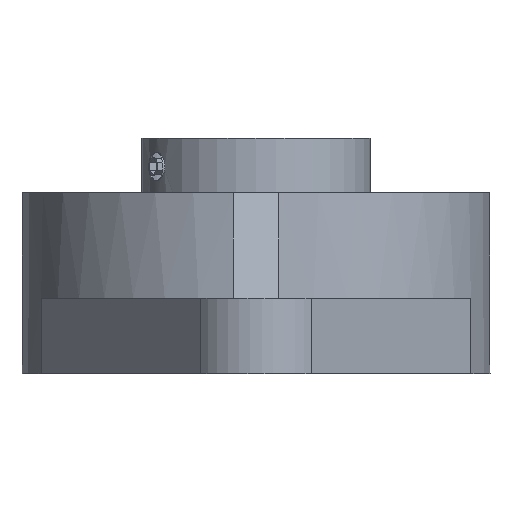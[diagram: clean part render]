
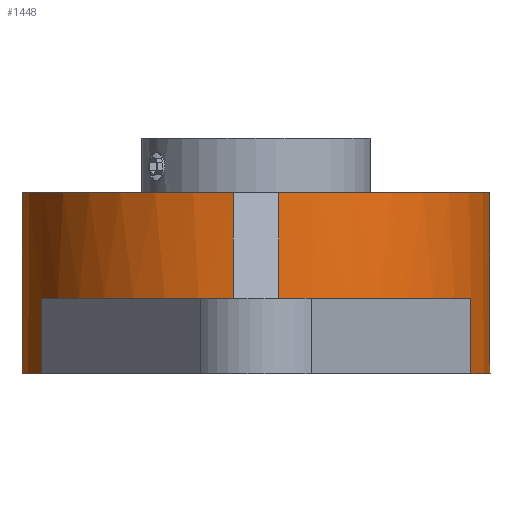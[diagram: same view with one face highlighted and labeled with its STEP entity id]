
A CAD part, front view. The second image highlights one B-rep face of the part: STEP entity #1448.
In plain terms, the highlighted cylindrical face has radius 41.5 mm (diameter 83 mm), a partial arc.
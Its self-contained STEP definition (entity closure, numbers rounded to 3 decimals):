
#118=FACE_BOUND('',#234,.T.);
#148=FACE_OUTER_BOUND('',#233,.T.);
#233=EDGE_LOOP('',(#970,#971,#972,#973,#974,#975,#976,#977));
#234=EDGE_LOOP('',(#978,#979));
#341=B_SPLINE_CURVE_WITH_KNOTS('',3,(#2312,#2313,#2314,#2315,#2316,#2317,
#2318,#2319,#2320,#2321,#2322,#2323,#2324,#2325,#2326,#2327,#2328,#2329),
 .UNSPECIFIED.,.F.,.F.,(4,2,2,2,2,2,2,2,4),(0.375,0.469,
0.563,0.656,0.75,0.844,
0.938,1.032,1.125),.UNSPECIFIED.);
#342=B_SPLINE_CURVE_WITH_KNOTS('',3,(#2330,#2331,#2332,#2333,#2334,#2335,
#2336,#2337,#2338,#2339,#2340,#2341,#2342,#2343,#2344,#2345,#2346,#2347,
#2348),.UNSPECIFIED.,.F.,.F.,(4,2,2,2,3,2,2,2,4),(1.125,1.219,
1.313,1.407,1.501,1.594,1.688,
1.782,1.876),.UNSPECIFIED.);
#354=LINE('',#2296,#436);
#355=LINE('',#2300,#437);
#356=LINE('',#2304,#438);
#357=LINE('',#2308,#439);
#436=VECTOR('',#1822,10.);
#437=VECTOR('',#1825,10.);
#438=VECTOR('',#1828,10.);
#439=VECTOR('',#1831,10.);
#524=CIRCLE('',#1630,41.5);
#525=CIRCLE('',#1631,41.5);
#526=CIRCLE('',#1632,41.5);
#527=CIRCLE('',#1633,41.5);
#613=VERTEX_POINT('',#2294);
#614=VERTEX_POINT('',#2295);
#615=VERTEX_POINT('',#2297);
#616=VERTEX_POINT('',#2299);
#617=VERTEX_POINT('',#2301);
#618=VERTEX_POINT('',#2303);
#619=VERTEX_POINT('',#2305);
#620=VERTEX_POINT('',#2307);
#621=VERTEX_POINT('',#2310);
#622=VERTEX_POINT('',#2311);
#758=EDGE_CURVE('',#613,#614,#354,.T.);
#759=EDGE_CURVE('',#615,#614,#524,.T.);
#760=EDGE_CURVE('',#616,#615,#355,.T.);
#761=EDGE_CURVE('',#616,#617,#525,.T.);
#762=EDGE_CURVE('',#617,#618,#356,.T.);
#763=EDGE_CURVE('',#619,#618,#526,.T.);
#764=EDGE_CURVE('',#619,#620,#357,.T.);
#765=EDGE_CURVE('',#620,#613,#527,.T.);
#766=EDGE_CURVE('',#621,#622,#341,.T.);
#767=EDGE_CURVE('',#622,#621,#342,.T.);
#970=ORIENTED_EDGE('',*,*,#758,.T.);
#971=ORIENTED_EDGE('',*,*,#759,.F.);
#972=ORIENTED_EDGE('',*,*,#760,.F.);
#973=ORIENTED_EDGE('',*,*,#761,.T.);
#974=ORIENTED_EDGE('',*,*,#762,.T.);
#975=ORIENTED_EDGE('',*,*,#763,.F.);
#976=ORIENTED_EDGE('',*,*,#764,.T.);
#977=ORIENTED_EDGE('',*,*,#765,.T.);
#978=ORIENTED_EDGE('',*,*,#766,.T.);
#979=ORIENTED_EDGE('',*,*,#767,.T.);
#1373=CYLINDRICAL_SURFACE('',#1629,41.5);
#1448=ADVANCED_FACE('',(#148,#118),#1373,.T.);
#1629=AXIS2_PLACEMENT_3D('',#2293,#1820,#1821);
#1630=AXIS2_PLACEMENT_3D('',#2298,#1823,#1824);
#1631=AXIS2_PLACEMENT_3D('',#2302,#1826,#1827);
#1632=AXIS2_PLACEMENT_3D('',#2306,#1829,#1830);
#1633=AXIS2_PLACEMENT_3D('',#2309,#1832,#1833);
#1820=DIRECTION('center_axis',(0.,0.,1.));
#1821=DIRECTION('ref_axis',(0.,1.,0.));
#1822=DIRECTION('',(0.,0.,-1.));
#1823=DIRECTION('center_axis',(0.,0.,
-1.));
#1824=DIRECTION('ref_axis',(-1.,0.,0.));
#1825=DIRECTION('',(0.,0.,1.));
#1826=DIRECTION('center_axis',(0.,0.,1.));
#1827=DIRECTION('ref_axis',(0.916,-0.402,0.));
#1828=DIRECTION('',(0.,0.,1.));
#1829=DIRECTION('center_axis',(0.,0.,
-1.));
#1830=DIRECTION('ref_axis',(-1.,0.,0.));
#1831=DIRECTION('',(0.,0.,1.));
#1832=DIRECTION('center_axis',(0.,0.,-1.));
#1833=DIRECTION('ref_axis',(-1.,0.,0.));
#2293=CARTESIAN_POINT('Origin',(0.,0.,-19.3));
#2294=CARTESIAN_POINT('',(4.,-41.307,12.7));
#2295=CARTESIAN_POINT('',(4.,-41.307,-6.));
#2296=CARTESIAN_POINT('',(4.,-41.307,-19.3));
#2297=CARTESIAN_POINT('',(38.,-16.681,-6.));
#2298=CARTESIAN_POINT('Origin',(0.,0.,-6.));
#2299=CARTESIAN_POINT('',(38.,-16.681,-19.3));
#2300=CARTESIAN_POINT('',(38.,-16.681,-19.3));
#2301=CARTESIAN_POINT('',(-38.,-16.681,-19.3));
#2302=CARTESIAN_POINT('Origin',(0.,0.,-19.3));
#2303=CARTESIAN_POINT('',(-38.,-16.681,-6.));
#2304=CARTESIAN_POINT('',(-38.,-16.681,-19.3));
#2305=CARTESIAN_POINT('',(-4.,-41.307,-6.));
#2306=CARTESIAN_POINT('Origin',(0.,0.,-6.));
#2307=CARTESIAN_POINT('',(-4.,-41.307,12.7));
#2308=CARTESIAN_POINT('',(-4.,-41.307,-19.3));
#2309=CARTESIAN_POINT('Origin',(0.,0.,12.7));
#2310=CARTESIAN_POINT('',(-29.345,29.345,2.211));
#2311=CARTESIAN_POINT('',(-29.345,29.345,7.189));
#2312=CARTESIAN_POINT('Ctrl Pts',(-29.345,29.345,2.211));
#2313=CARTESIAN_POINT('Ctrl Pts',(-29.124,29.566,2.211));
#2314=CARTESIAN_POINT('Ctrl Pts',(-28.885,29.799,2.273));
#2315=CARTESIAN_POINT('Ctrl Pts',(-28.442,30.223,2.528));
#2316=CARTESIAN_POINT('Ctrl Pts',(-28.237,30.413,2.719));
#2317=CARTESIAN_POINT('Ctrl Pts',(-27.911,30.713,3.161));
#2318=CARTESIAN_POINT('Ctrl Pts',(-27.769,30.841,3.441));
#2319=CARTESIAN_POINT('Ctrl Pts',(-27.579,31.011,4.054));
#2320=CARTESIAN_POINT('Ctrl Pts',(-27.532,31.052,4.387));
#2321=CARTESIAN_POINT('Ctrl Pts',(-27.532,31.052,5.013));
#2322=CARTESIAN_POINT('Ctrl Pts',(-27.579,31.011,5.346));
#2323=CARTESIAN_POINT('Ctrl Pts',(-27.769,30.841,5.959));
#2324=CARTESIAN_POINT('Ctrl Pts',(-27.911,30.713,6.239));
#2325=CARTESIAN_POINT('Ctrl Pts',(-28.237,30.413,6.681));
#2326=CARTESIAN_POINT('Ctrl Pts',(-28.442,30.223,6.872));
#2327=CARTESIAN_POINT('Ctrl Pts',(-28.885,29.799,7.127));
#2328=CARTESIAN_POINT('Ctrl Pts',(-29.124,29.566,7.189));
#2329=CARTESIAN_POINT('Ctrl Pts',(-29.345,29.345,7.189));
#2330=CARTESIAN_POINT('Ctrl Pts',(-29.345,29.345,7.189));
#2331=CARTESIAN_POINT('Ctrl Pts',(-29.566,29.124,7.189));
#2332=CARTESIAN_POINT('Ctrl Pts',(-29.799,28.885,7.127));
#2333=CARTESIAN_POINT('Ctrl Pts',(-30.223,28.442,6.872));
#2334=CARTESIAN_POINT('Ctrl Pts',(-30.413,28.237,6.681));
#2335=CARTESIAN_POINT('Ctrl Pts',(-30.713,27.911,6.239));
#2336=CARTESIAN_POINT('Ctrl Pts',(-30.841,27.769,5.959));
#2337=CARTESIAN_POINT('Ctrl Pts',(-31.011,27.579,5.346));
#2338=CARTESIAN_POINT('Ctrl Pts',(-31.052,27.532,5.013));
#2339=CARTESIAN_POINT('Ctrl Pts',(-31.052,27.532,4.7));
#2340=CARTESIAN_POINT('Ctrl Pts',(-31.052,27.532,4.387));
#2341=CARTESIAN_POINT('Ctrl Pts',(-31.011,27.579,4.054));
#2342=CARTESIAN_POINT('Ctrl Pts',(-30.841,27.769,3.441));
#2343=CARTESIAN_POINT('Ctrl Pts',(-30.713,27.911,3.161));
#2344=CARTESIAN_POINT('Ctrl Pts',(-30.413,28.237,2.719));
#2345=CARTESIAN_POINT('Ctrl Pts',(-30.223,28.442,2.528));
#2346=CARTESIAN_POINT('Ctrl Pts',(-29.799,28.885,2.273));
#2347=CARTESIAN_POINT('Ctrl Pts',(-29.566,29.124,2.211));
#2348=CARTESIAN_POINT('Ctrl Pts',(-29.345,29.345,2.211));
